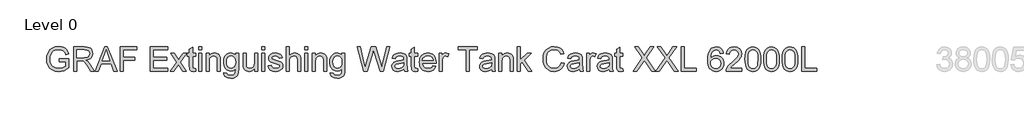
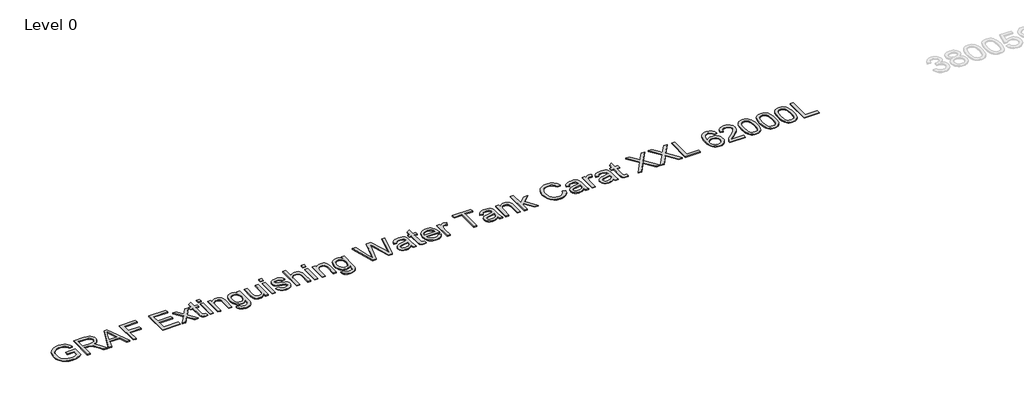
# One storey, part 3 of 37: 1 proxy.
"""IFC4 building model written with IfcOpenShell, lengths in millimetres."""

from ifc_helpers import new_model, si_unit, origin, origin_with_axes, place, context, project, spatial, polyline, outline, extrude, element, save

model = new_model("IFC4")

# Units and contexts
model_context = context("Model", 3, world=origin())
ifc_project = project(units=[si_unit("LENGTHUNIT", "METRE", prefix="MILLI")], contexts=[model_context])

# Site, building, storey
site = spatial("IfcSite", under=ifc_project)
building = spatial("IfcBuilding", under=site)
storey = spatial("IfcBuildingStorey", under=building, Name="Level 0", Elevation=0.0)

# Proxy
placement = place(None, origin())
element("IfcBuildingElementProxy", 1, Name="300mm Arial", ObjectType="300mm Arial", at=placement, inside=storey, context=model_context, shape_type="SweptSolid", body=[
    extrude(outline(polyline([(-17240.9940387, -37583.2545597), (-17240.9940387, -37545.5834434), (-17118.5629107, -37545.5834434), (-17118.5629107, -37658.2289103), (-17148.3153671, -37678.9222726), (-17179.0059225, -37693.7663111), (-17210.5610007, -37702.7058436), (-17242.9070251, -37705.6856877), (-17285.1674693, -37700.949207), (-17323.3628175, -37686.739765), (-17355.0926395, -37663.5540022), (-17377.9565055, -37631.8885595), (-17391.7796715, -37593.9047435), (-17396.3873935, -37551.7638609), (-17391.7980656, -37509.3194757), (-17378.0300819, -37469.8365406), (-17355.6536596, -37436.717964), (-17325.2390156, -37413.3666543), (-17288.1932987, -37399.5158972), (-17245.9236575, -37394.8989782), (-17214.8928112, -37397.5753197), (-17186.9889618, -37405.6043443), (-17163.4904994, -37418.4066377), (-17145.6758138, -37435.4027859), (-17132.4964413, -37457.4113262), (-17122.9039183, -37485.2507962), (-17157.6319786, -37495.0364573), (-17165.3850917, -37475.1800266), (-17174.8120678, -37460.1980323), (-17187.2832674, -37448.9040551), (-17204.169051, -37440.1116754), (-17224.3013932, -37434.4554897), (-17246.5122687, -37432.5700945), (-17272.5123287, -37434.6026425), (-17294.7415982, -37440.7002866), (-17313.1173039, -37450.0996716), (-17327.5566722, -37462.0374423), (-17346.9440533, -37491.0633317), (-17355.7732212, -37519.50061), (-17358.7162772, -37550.2187566), (-17355.175413, -37586.2436009), (-17344.5528204, -37615.8856927), (-17327.1703961, -37638.9334997), (-17303.3500369, -37655.1754898), (-17275.4737787, -37664.804801), (-17245.9236575, -37668.0145714), (-17219.831627, -37665.5957473), (-17194.3833899, -37658.3392749), (-17172.2828791, -37648.3420817), (-17156.234027, -37637.701095), (-17156.234027, -37583.2545597), (-17240.9940387, -37583.2545597)])), origin_with_axes(), (0.0, 0.0, 1.0), 10.0),
    extrude(outline(polyline([(-17057.3473467, -37700.9767982), (-17057.3473467, -37399.6078677), (-16927.4850024, -37399.6078677), (-16892.5821982, -37401.6404158), (-16867.1891434, -37407.7380598), (-16848.6294968, -37418.9952489), (-16834.2269167, -37436.5064318), (-16824.9838815, -37458.2206666), (-16821.9028698, -37482.087011), (-16827.0072325, -37511.7750881), (-16842.3203206, -37536.3863935), (-16853.9200997, -37546.4157764), (-16868.3019865, -37554.4310054), (-16905.4120827, -37564.4190016), (-16884.0013506, -37580.532233), (-16853.467145, -37619.3069952), (-16803.2144645, -37700.9767982), (-16846.9924219, -37700.9767982), (-16886.2086426, -37638.5104354), (-16914.5355562, -37597.1604991), (-16934.4379722, -37577.6259652), (-16952.3538253, -37570.4522663), (-16974.2060158, -37569.1278911), (-17019.6762304, -37569.1278911), (-17019.6762304, -37700.9767982), (-17057.3473467, -37700.9767982)]), holes=[polyline([(-17019.6762304, -37531.4567748), (-16935.3576771, -37531.4567748), (-16911.1418448, -37530.1232026), (-16892.3522719, -37526.1224859), (-16878.2072092, -37519.1879103), (-16867.9249074, -37509.0527613), (-16861.6617165, -37496.7930938), (-16859.5739861, -37483.4849626), (-16863.5563087, -37465.109257), (-16875.5032765, -37450.3020067), (-16896.058683, -37440.5347397), (-16925.8663217, -37437.278984), (-17019.6762304, -37437.278984), (-17019.6762304, -37531.4567748)])]), origin_with_axes(), (0.0, 0.0, 1.0), 10.0),
    extrude(outline(polyline([(-16791.0743586, -37700.9767982), (-16670.7769462, -37399.6078677), (-16638.6976362, -37399.6078677), (-16518.4002238, -37700.9767982), (-16558.2050557, -37700.9767982), (-16592.7123868, -37606.7990074), (-16716.835772, -37606.7990074), (-16751.2695268, -37700.9767982), (-16791.0743586, -37700.9767982)]), holes=[polyline([(-16703.003409, -37569.1278911), (-16606.4711735, -37569.1278911), (-16633.6208647, -37495.0364573), (-16654.7372912, -37437.278984), (-16673.499273, -37488.5617342), (-16703.003409, -37569.1278911)])]), origin_with_axes(), (0.0, 0.0, 1.0), 10.0),
    extrude(outline(polyline([(-16478.1539335, -37700.9767982), (-16478.1539335, -37399.6078677), (-16275.6716834, -37399.6078677), (-16275.6716834, -37437.278984), (-16440.4828172, -37437.278984), (-16440.4828172, -37526.7478853), (-16299.2161311, -37526.7478853), (-16299.2161311, -37564.4190016), (-16440.4828172, -37564.4190016), (-16440.4828172, -37700.9767982), (-16478.1539335, -37700.9767982)])), origin_with_axes(), (0.0, 0.0, 1.0), 10.0),
    extrude(outline(polyline([(-16106.15166, -37700.9767982), (-16106.15166, -37399.6078677), (-15889.5427413, -37399.6078677), (-15889.5427413, -37437.278984), (-16068.4805437, -37437.278984), (-16068.4805437, -37526.7478853), (-15898.9605203, -37526.7478853), (-15898.9605203, -37564.4190016), (-16068.4805437, -37564.4190016), (-16068.4805437, -37663.3056819), (-15884.8338517, -37663.3056819), (-15884.8338517, -37700.9767982), (-16106.15166, -37700.9767982)])), origin_with_axes(), (0.0, 0.0, 1.0), 10.0),
    extrude(outline(polyline([(-15856.5805145, -37700.9767982), (-15776.0879339, -37589.7292828), (-15851.8716249, -37479.6589899), (-15806.5485631, -37479.6589899), (-15769.9810928, -37532.6339972), (-15752.9113682, -37557.6499729), (-15738.122512, -37537.1957339), (-15696.4782702, -37479.6589899), (-15651.1552084, -37479.6589899), (-15730.7648721, -37589.7292828), (-15654.0982643, -37700.9767982), (-15699.4213261, -37700.9767982), (-15745.5537283, -37634.0958515), (-15754.0150142, -37621.8821692), (-15811.2574527, -37700.9767982), (-15856.5805145, -37700.9767982)])), origin_with_axes(), (0.0, 0.0, 1.0), 10.0),
    extrude(outline(polyline([(-15541.0849154, -37669.5596758), (-15536.3760259, -37702.0804442), (-15564.5557867, -37705.6856877), (-15582.6371868, -37704.1221892), (-15596.1200619, -37699.4316938), (-15605.6482056, -37692.2028126), (-15611.8654113, -37683.0241568), (-15615.2867139, -37667.2604133), (-15616.427148, -37640.276269), (-15616.427148, -37517.3301062), (-15644.6804853, -37517.3301062), (-15644.6804853, -37479.6589899), (-15616.427148, -37479.6589899), (-15616.427148, -37425.8746422), (-15578.7560317, -37403.7281461), (-15578.7560317, -37479.6589899), (-15541.0849154, -37479.6589899), (-15541.0849154, -37517.3301062), (-15578.7560317, -37517.3301062), (-15578.7560317, -37639.172623), (-15576.769469, -37658.5967923), (-15570.331534, -37665.4761856), (-15557.4924524, -37668.0145714), (-15541.0849154, -37669.5596758)])), origin_with_axes(), (0.0, 0.0, 1.0), 10.0),
    extrude(outline(polyline([(-15503.4137991, -37437.278984), (-15503.4137991, -37399.6078677), (-15465.7426828, -37399.6078677), (-15465.7426828, -37437.278984), (-15503.4137991, -37437.278984)])), origin_with_axes(), (0.0, 0.0, 1.0), 10.0),
    extrude(outline(polyline([(-15503.4137991, -37700.9767982), (-15503.4137991, -37479.6589899), (-15465.7426828, -37479.6589899), (-15465.7426828, -37700.9767982), (-15503.4137991, -37700.9767982)])), origin_with_axes(), (0.0, 0.0, 1.0), 10.0),
    extrude(outline(polyline([(-15409.2360084, -37700.9767982), (-15409.2360084, -37479.6589899), (-15371.564892, -37479.6589899), (-15371.564892, -37510.5610775), (-15358.4774901, -37494.981275), (-15342.7597318, -37483.8528446), (-15324.4116173, -37477.1757864), (-15303.4331465, -37474.9501003), (-15284.8643028, -37476.7435251), (-15267.8589576, -37482.1237992), (-15253.6771067, -37490.4195382), (-15243.5787459, -37500.9593574), (-15232.2847687, -37528.6608716), (-15230.2982059, -37565.0811892), (-15230.2982059, -37700.9767982), (-15267.9693222, -37700.9767982), (-15267.9693222, -37570.1579607), (-15272.3103297, -37536.8278519), (-15278.3160033, -37526.9042351), (-15287.6510089, -37519.2063044), (-15299.6163708, -37514.2674886), (-15313.5131132, -37512.6212166), (-15335.5768359, -37516.3184307), (-15354.3848029, -37527.4100729), (-15361.9010919, -37536.4645685), (-15367.2698698, -37548.8391991), (-15371.564892, -37583.5488653), (-15371.564892, -37700.9767982), (-15409.2360084, -37700.9767982)])), origin_with_axes(), (0.0, 0.0, 1.0), 10.0),
    extrude(outline(polyline([(-15187.9182001, -37719.8123563), (-15150.2470837, -37724.5212459), (-15146.0900172, -37736.2934697), (-15138.0334015, -37744.3868736), (-15122.1960816, -37750.6776557), (-15101.4659312, -37752.7745831), (-15079.3562233, -37750.4017442), (-15062.9118981, -37743.2832276), (-15051.5075562, -37731.8788858), (-15044.5177983, -37716.6485712), (-15041.9426244, -37672.7234609), (-15054.4782034, -37685.084296), (-15068.4669162, -37693.9134639), (-15083.908763, -37699.2109646), (-15100.8037436, -37700.9767982), (-15121.4580184, -37698.9212575), (-15139.6428852, -37692.7546356), (-15155.3583442, -37682.4769323), (-15168.6043953, -37668.0881478), (-15179.1143241, -37650.8252852), (-15186.621416, -37631.9253477), (-15191.1256712, -37611.3883353), (-15192.6270896, -37589.214248), (-15189.932354, -37558.7996041), (-15181.8481471, -37530.8313754), (-15168.6595776, -37507.1305779), (-15150.6517539, -37489.5182274), (-15128.4408785, -37478.5921321), (-15102.6431536, -37474.9501003), (-15085.0262045, -37477.0102395), (-15069.0371333, -37483.190657), (-15054.6759399, -37493.4913529), (-15041.9426244, -37507.9123271), (-15041.9426244, -37479.6589899), (-15004.2715081, -37479.6589899), (-15004.2715081, -37670.7368982), (-15006.846682, -37714.8551464), (-15014.5722039, -37743.908627), (-15027.8803351, -37763.1764465), (-15047.2033369, -37777.9377116), (-15072.118145, -37787.3187024), (-15102.2016952, -37790.4456994), (-15137.2516523, -37786.0403125), (-15164.851999, -37772.8241518), (-15175.2469646, -37762.9028343), (-15182.55632, -37750.7604292), (-15186.7800651, -37736.3969365), (-15187.9182001, -37719.8123563)]), holes=[polyline([(-15154.9559733, -37586.6390741), (-15150.9368625, -37621.1923905), (-15138.8795301, -37644.9483703), (-15120.7521448, -37658.716354), (-15098.5228752, -37663.3056819), (-15076.4591526, -37658.7439451), (-15058.2397968, -37645.0587349), (-15046.0169175, -37621.6062577), (-15041.9426244, -37587.7427201), (-15046.1364791, -37555.0839959), (-15058.7180433, -37531.5671394), (-15077.2041136, -37517.3576973), (-15099.1114864, -37512.6212166), (-15120.6233861, -37517.2841209), (-15138.6588009, -37531.2728338), (-15150.8816802, -37554.4402024), (-15154.9559733, -37586.6390741)])]), origin_with_axes(), (0.0, 0.0, 1.0), 10.0),
    extrude(outline(polyline([(-14806.4981475, -37700.9767982), (-14806.4981475, -37662.9377999), (-14820.1281754, -37681.6400008), (-14836.0022835, -37694.9987158), (-14854.1204717, -37703.0139447), (-14874.4827402, -37705.6856877), (-14892.8308547, -37703.8094895), (-14909.9097763, -37698.180895), (-14924.23878, -37689.7196091), (-14934.3371408, -37679.3453369), (-14945.5575416, -37651.6070344), (-14947.7648336, -37616.5846685), (-14947.7648336, -37479.6589899), (-14910.0937173, -37479.6589899), (-14910.0937173, -37598.8527563), (-14907.8128489, -37637.2596366), (-14902.3222101, -37650.0711271), (-14892.9136281, -37659.8108029), (-14880.2125022, -37665.9636293), (-14864.8442319, -37668.0145714), (-14848.5930448, -37665.917644), (-14833.3903213, -37659.6268619), (-14820.8547423, -37649.7216392), (-14812.6049886, -37636.78139), (-14808.0248577, -37619.0586749), (-14806.4981475, -37594.8060544), (-14806.4981475, -37479.6589899), (-14768.8270311, -37479.6589899), (-14768.8270311, -37700.9767982), (-14806.4981475, -37700.9767982)])), origin_with_axes(), (0.0, 0.0, 1.0), 10.0),
    extrude(outline(polyline([(-14717.0292462, -37437.278984), (-14717.0292462, -37399.6078677), (-14679.3581299, -37399.6078677), (-14679.3581299, -37437.278984), (-14717.0292462, -37437.278984)])), origin_with_axes(), (0.0, 0.0, 1.0), 10.0),
    extrude(outline(polyline([(-14717.0292462, -37700.9767982), (-14717.0292462, -37479.6589899), (-14679.3581299, -37479.6589899), (-14679.3581299, -37700.9767982), (-14717.0292462, -37700.9767982)])), origin_with_axes(), (0.0, 0.0, 1.0), 10.0),
    extrude(outline(polyline([(-14636.9781241, -37635.0523446), (-14599.3070078, -37630.3434551), (-14593.3657135, -37646.4566865), (-14581.8694012, -37658.3024867), (-14564.7444943, -37665.5865502), (-14541.9174165, -37668.0145714), (-14519.3662502, -37665.7888853), (-14503.5105362, -37659.1118271), (-14494.1295453, -37649.4365307), (-14491.0025484, -37638.2161298), (-14494.1479394, -37628.6144097), (-14503.5841126, -37621.293558), (-14542.3588749, -37610.5514038), (-14599.0862786, -37592.1205158), (-14613.4428734, -37582.8590866), (-14623.8447368, -37570.5994191), (-14630.1631101, -37556.1232626), (-14632.2692345, -37540.2123663), (-14630.5769774, -37525.6166481), (-14625.5002058, -37512.1429701), (-14617.4987724, -37500.324761), (-14607.0325297, -37490.6954497), (-14583.0834118, -37479.5486253), (-14550.673008, -37474.9501003), (-14526.153673, -37476.7987074), (-14504.8349114, -37482.3445284), (-14487.6916104, -37491.0449376), (-14475.6986574, -37502.357309), (-14467.7524063, -37517.118574), (-14462.7492112, -37536.1656643), (-14500.4203275, -37540.8745539), (-14505.1752023, -37529.0195566), (-14514.5837843, -37520.0892211), (-14528.738044, -37514.4882178), (-14547.729952, -37512.6212166), (-14569.3614134, -37514.4054443), (-14583.7823876, -37519.7581274), (-14591.8941856, -37527.4836493), (-14594.5981182, -37536.3863935), (-14590.1099579, -37547.349277), (-14576.0568657, -37555.6634101), (-14543.6096737, -37563.6832376), (-14488.3170098, -37581.4151497), (-14473.7120946, -37589.8948297), (-14462.6388466, -37601.5015067), (-14455.6582857, -37616.2719688), (-14453.3314321, -37634.2430043), (-14456.0629559, -37652.821045), (-14464.2575273, -37670.2954398), (-14477.6024467, -37685.2958281), (-14495.7850143, -37696.4518496), (-14517.7475694, -37703.3772282), (-14542.4324513, -37705.6856877), (-14580.4162673, -37701.2343156), (-14608.1361757, -37687.8801991), (-14626.64064, -37665.7704912), (-14636.9781241, -37635.0523446)])), origin_with_axes(), (0.0, 0.0, 1.0), 10.0),
    extrude(outline(polyline([(-14410.9514262, -37700.9767982), (-14410.9514262, -37399.6078677), (-14373.2803099, -37399.6078677), (-14373.2803099, -37510.4139247), (-14359.4433484, -37494.8985015), (-14343.9049326, -37483.8160564), (-14326.6650626, -37477.1665894), (-14307.7237384, -37474.9501003), (-14284.970237, -37477.3689245), (-14265.4173089, -37484.6253968), (-14250.0214474, -37496.1493003), (-14239.7391457, -37511.3704179), (-14233.9450043, -37532.2845093), (-14232.0136238, -37560.8873344), (-14232.0136238, -37700.9767982), (-14269.6847401, -37700.9767982), (-14269.6847401, -37564.7868836), (-14272.6829784, -37541.2056477), (-14281.6776931, -37525.0556281), (-14296.1722437, -37515.7298195), (-14315.6699895, -37512.6212166), (-14331.5900828, -37514.718144), (-14346.5352889, -37521.0089261), (-14358.914518, -37530.8865577), (-14367.1366806, -37543.7440334), (-14371.7444026, -37560.8321521), (-14373.2803099, -37583.4017125), (-14373.2803099, -37700.9767982), (-14410.9514262, -37700.9767982)])), origin_with_axes(), (0.0, 0.0, 1.0), 10.0),
    extrude(outline(polyline([(-14180.2158389, -37437.278984), (-14180.2158389, -37399.6078677), (-14142.5447226, -37399.6078677), (-14142.5447226, -37437.278984), (-14180.2158389, -37437.278984)])), origin_with_axes(), (0.0, 0.0, 1.0), 10.0),
    extrude(outline(polyline([(-14180.2158389, -37700.9767982), (-14180.2158389, -37479.6589899), (-14142.5447226, -37479.6589899), (-14142.5447226, -37700.9767982), (-14180.2158389, -37700.9767982)])), origin_with_axes(), (0.0, 0.0, 1.0), 10.0),
    extrude(outline(polyline([(-14086.0380481, -37700.9767982), (-14086.0380481, -37479.6589899), (-14048.3669318, -37479.6589899), (-14048.3669318, -37510.5610775), (-14035.2795298, -37494.981275), (-14019.5617716, -37483.8528446), (-14001.2136571, -37477.1757864), (-13980.2351863, -37474.9501003), (-13961.6663426, -37476.7435251), (-13944.6609974, -37482.1237992), (-13930.4791464, -37490.4195382), (-13920.3807857, -37500.9593574), (-13909.0868084, -37528.6608716), (-13907.1002456, -37565.0811892), (-13907.1002456, -37700.9767982), (-13944.771362, -37700.9767982), (-13944.771362, -37570.1579607), (-13949.1123695, -37536.8278519), (-13955.1180431, -37526.9042351), (-13964.4530487, -37519.2063044), (-13976.4184106, -37514.2674886), (-13990.315153, -37512.6212166), (-14012.3788756, -37516.3184307), (-14031.1868426, -37527.4100729), (-14038.7031316, -37536.4645685), (-14044.0719095, -37548.8391991), (-14048.3669318, -37583.5488653), (-14048.3669318, -37700.9767982), (-14086.0380481, -37700.9767982)])), origin_with_axes(), (0.0, 0.0, 1.0), 10.0),
    extrude(outline(polyline([(-13864.7202398, -37719.8123563), (-13827.0491235, -37724.5212459), (-13822.8920569, -37736.2934697), (-13814.8354413, -37744.3868736), (-13798.9981214, -37750.6776557), (-13778.2679709, -37752.7745831), (-13756.158263, -37750.4017442), (-13739.7139378, -37743.2832276), (-13728.309596, -37731.8788858), (-13721.3198381, -37716.6485712), (-13718.7446641, -37672.7234609), (-13731.2802431, -37685.084296), (-13745.268956, -37693.9134639), (-13760.7108027, -37699.2109646), (-13777.6057833, -37700.9767982), (-13798.2600581, -37698.9212575), (-13816.444925, -37692.7546356), (-13832.160384, -37682.4769323), (-13845.4064351, -37668.0881478), (-13855.9163638, -37650.8252852), (-13863.4234558, -37631.9253477), (-13867.9277109, -37611.3883353), (-13869.4291293, -37589.214248), (-13866.7343937, -37558.7996041), (-13858.6501869, -37530.8313754), (-13845.4616174, -37507.1305779), (-13827.4537937, -37489.5182274), (-13805.2429182, -37478.5921321), (-13779.4451933, -37474.9501003), (-13761.8282443, -37477.0102395), (-13745.8391731, -37483.190657), (-13731.4779797, -37493.4913529), (-13718.7446641, -37507.9123271), (-13718.7446641, -37479.6589899), (-13681.0735478, -37479.6589899), (-13681.0735478, -37670.7368982), (-13683.6487218, -37714.8551464), (-13691.3742437, -37743.908627), (-13704.6823748, -37763.1764465), (-13724.0053766, -37777.9377116), (-13748.9201848, -37787.3187024), (-13779.0037349, -37790.4456994), (-13814.053692, -37786.0403125), (-13841.6540387, -37772.8241518), (-13852.0490043, -37762.9028343), (-13859.3583597, -37750.7604292), (-13863.5821049, -37736.3969365), (-13864.7202398, -37719.8123563)]), holes=[polyline([(-13831.758013, -37586.6390741), (-13827.7389022, -37621.1923905), (-13815.6815698, -37644.9483703), (-13797.5541845, -37658.716354), (-13775.324915, -37663.3056819), (-13753.2611923, -37658.7439451), (-13735.0418365, -37645.0587349), (-13722.8189572, -37621.6062577), (-13718.7446641, -37587.7427201), (-13722.9385189, -37555.0839959), (-13735.5200831, -37531.5671394), (-13754.0061534, -37517.3576973), (-13775.9135262, -37512.6212166), (-13797.4254258, -37517.2841209), (-13815.4608406, -37531.2728338), (-13827.6837199, -37554.4402024), (-13831.758013, -37586.6390741)])]), origin_with_axes(), (0.0, 0.0, 1.0), 10.0),
    extrude(outline(polyline([(-13448.2042449, -37700.9767982), (-13530.3890826, -37399.6078677), (-13491.5407439, -37399.6078677), (-13443.8632373, -37597.6755339), (-13429.1479575, -37658.8175215), (-13413.4026081, -37604.7388682), (-13353.6585721, -37399.6078677), (-13297.6669324, -37399.6078677), (-13254.256857, -37548.3057702), (-13235.6604221, -37603.4880695), (-13221.9568178, -37658.8175215), (-13207.6829964, -37599.4413675), (-13159.5640314, -37399.6078677), (-13120.7156928, -37399.6078677), (-13202.9741069, -37700.9767982), (-13243.2203971, -37700.9767982), (-13315.472421, -37468.4753772), (-13325.5523877, -37436.0281853), (-13336.8831531, -37475.0972531), (-13402.7340303, -37700.9767982), (-13448.2042449, -37700.9767982)])), origin_with_axes(), (0.0, 0.0, 1.0), 10.0),
    extrude(outline(polyline([(-12946.4867798, -37672.7234609), (-12964.4854065, -37688.1561106), (-12983.017462, -37698.2544714), (-13002.5060107, -37703.8278836), (-13023.3741168, -37705.6856877), (-13054.8556186, -37701.2159215), (-13078.0781695, -37687.8066228), (-13092.3979762, -37667.4443543), (-13097.1712451, -37642.1156789), (-13095.3686233, -37626.4990883), (-13089.960758, -37612.3172373), (-13081.6190337, -37600.1771315), (-13071.0148352, -37590.685776), (-13044.6376962, -37578.324941), (-13012.0433514, -37572.6595583), (-12973.5261065, -37566.6998699), (-12946.707509, -37559.710112), (-12946.4867798, -37551.3224025), (-12949.0803479, -37534.5101954), (-12956.8610521, -37523.5105237), (-12974.2618705, -37515.3435434), (-12998.505294, -37512.6212166), (-13020.9460957, -37514.4330355), (-13036.6178687, -37519.868492), (-13047.3048406, -37529.9208675), (-13054.7912392, -37545.5834434), (-13092.4623555, -37540.8745539), (-13085.9232531, -37520.2731621), (-13076.1651831, -37504.0863544), (-13062.2776378, -37491.7071252), (-13043.3501092, -37482.5284694), (-13020.2011346, -37476.8446926), (-12993.6492516, -37474.9501003), (-12968.1826205, -37476.6239634), (-12947.995096, -37481.6455527), (-12932.7739785, -37489.1963306), (-12922.2065682, -37498.4577598), (-12915.1984162, -37509.9080869), (-12910.6550735, -37524.0255585), (-12908.8156635, -37556.9877853), (-12908.8156635, -37603.8559515), (-12906.9026772, -37669.3021584), (-12899.3978845, -37700.9767982), (-12937.0690008, -37700.9767982), (-12946.4867798, -37672.7234609)]), holes=[polyline([(-12946.4867798, -37597.3812283), (-13007.2608854, -37608.932723), (-13039.6712892, -37615.0395641), (-13054.3497808, -37624.972378), (-13059.5001288, -37639.4669286), (-13056.6950285, -37650.6689353), (-13048.2797279, -37659.8475911), (-13034.4381678, -37665.9728263), (-13015.3542893, -37668.0145714), (-12995.1207796, -37665.7612942), (-12977.2417146, -37659.0014625), (-12962.747164, -37649.0410575), (-12952.6671974, -37637.1860602), (-12948.1974311, -37624.972378), (-12946.707509, -37608.0498062), (-12946.4867798, -37597.3812283)])]), origin_with_axes(), (0.0, 0.0, 1.0), 10.0),
    extrude(outline(polyline([(-12776.9667565, -37669.5596758), (-12772.2578669, -37702.0804442), (-12800.4376278, -37705.6856877), (-12818.5190278, -37704.1221892), (-12832.0019029, -37699.4316938), (-12841.5300466, -37692.2028126), (-12847.7472523, -37683.0241568), (-12851.1685549, -37667.2604133), (-12852.3089891, -37640.276269), (-12852.3089891, -37517.3301062), (-12880.5623263, -37517.3301062), (-12880.5623263, -37479.6589899), (-12852.3089891, -37479.6589899), (-12852.3089891, -37425.8746422), (-12814.6378728, -37403.7281461), (-12814.6378728, -37479.6589899), (-12776.9667565, -37479.6589899), (-12776.9667565, -37517.3301062), (-12814.6378728, -37517.3301062), (-12814.6378728, -37639.172623), (-12812.65131, -37658.5967923), (-12806.2133751, -37665.4761856), (-12793.3742934, -37668.0145714), (-12776.9667565, -37669.5596758)])), origin_with_axes(), (0.0, 0.0, 1.0), 10.0),
    extrude(outline(polyline([(-12584.3437438, -37635.0523446), (-12547.4083915, -37639.7612342), (-12560.7165226, -37667.5915071), (-12581.9525108, -37688.3952339), (-12610.6381094, -37701.3630743), (-12646.2950718, -37705.6856877), (-12669.669374, -37703.8209859), (-12690.4960935, -37698.2268803), (-12708.7752301, -37688.9033709), (-12724.506784, -37675.8504579), (-12737.1573261, -37659.4314246), (-12746.1934276, -37640.0095545), (-12751.6150885, -37617.5848477), (-12753.4223088, -37592.157304), (-12751.5966944, -37565.8675369), (-12746.1198512, -37542.6955698), (-12736.9917792, -37522.6414025), (-12724.2124784, -37505.7050351), (-12708.5223113, -37492.2497512), (-12690.6616404, -37482.638834), (-12670.6304658, -37476.8722838), (-12648.4287873, -37474.9501003), (-12626.9421796, -37476.8676852), (-12607.5111124, -37482.6204399), (-12590.1355859, -37492.2083644), (-12574.8156001, -37505.6314587), (-12562.3099115, -37522.5310379), (-12553.3772768, -37542.548417), (-12548.017696, -37565.6835959), (-12546.2311691, -37591.9365748), (-12546.4518983, -37602.0901179), (-12715.7511925, -37602.0901179), (-12709.2304841, -37630.2882728), (-12694.0829429, -37651.0184232), (-12672.2215554, -37663.7655344), (-12645.5593078, -37668.0145714), (-12625.509739, -37666.0464027), (-12608.6239555, -37660.1418967), (-12594.901957, -37649.9331713), (-12584.3437438, -37635.0523446)]), holes=[polyline([(-12715.7511925, -37564.4190016), (-12583.9022854, -37564.4190016), (-12588.997451, -37544.5165856), (-12598.9854472, -37530.2795524), (-12620.9480023, -37517.0358006), (-12648.5759401, -37512.6212166), (-12673.9689949, -37516.1436868), (-12694.9658597, -37526.7110971), (-12709.5615779, -37543.1830134), (-12715.7511925, -37564.4190016)])]), origin_with_axes(), (0.0, 0.0, 1.0), 10.0),
    extrude(outline(polyline([(-12508.5600528, -37700.9767982), (-12508.5600528, -37479.6589899), (-12475.597826, -37479.6589899), (-12475.597826, -37512.4004875), (-12463.420932, -37493.4177765), (-12452.2005311, -37482.2341638), (-12440.9433421, -37476.7711162), (-12428.6560834, -37474.9501003), (-12409.8941017, -37477.8563681), (-12390.8378143, -37486.5751714), (-12403.4193786, -37520.3467385), (-12416.6631304, -37514.5525971), (-12429.9068822, -37512.6212166), (-12441.1548742, -37514.4790207), (-12451.2072497, -37520.052433), (-12459.3282448, -37528.918389), (-12464.7820954, -37540.6538247), (-12469.3622262, -37561.6966748), (-12470.8889365, -37584.6525113), (-12470.8889365, -37700.9767982), (-12508.5600528, -37700.9767982)])), origin_with_axes(), (0.0, 0.0, 1.0), 10.0),
    extrude(outline(polyline([(-12169.520006, -37700.9767982), (-12169.520006, -37437.278984), (-12268.4066863, -37437.278984), (-12268.4066863, -37399.6078677), (-12032.9622094, -37399.6078677), (-12032.9622094, -37437.278984), (-12131.8488897, -37437.278984), (-12131.8488897, -37700.9767982), (-12169.520006, -37700.9767982)])), origin_with_axes(), (0.0, 0.0, 1.0), 10.0),
    extrude(outline(polyline([(-11854.024407, -37672.7234609), (-11872.0230336, -37688.1561106), (-11890.5550891, -37698.2544714), (-11910.0436378, -37703.8278836), (-11930.911744, -37705.6856877), (-11962.3932457, -37701.2159215), (-11985.6157966, -37687.8066228), (-11999.9356033, -37667.4443543), (-12004.7088722, -37642.1156789), (-12002.9062504, -37626.4990883), (-11997.4983851, -37612.3172373), (-11989.1566608, -37600.1771315), (-11978.5524623, -37590.685776), (-11952.1753233, -37578.324941), (-11919.5809785, -37572.6595583), (-11881.0637336, -37566.6998699), (-11854.2451362, -37559.710112), (-11854.024407, -37551.3224025), (-11856.617975, -37534.5101954), (-11864.3986792, -37523.5105237), (-11881.7994976, -37515.3435434), (-11906.0429211, -37512.6212166), (-11928.4837228, -37514.4330355), (-11944.1554958, -37519.868492), (-11954.8424677, -37529.9208675), (-11962.3288663, -37545.5834434), (-11999.9999826, -37540.8745539), (-11993.4608802, -37520.2731621), (-11983.7028103, -37504.0863544), (-11969.8152649, -37491.7071252), (-11950.8877363, -37482.5284694), (-11927.7387617, -37476.8446926), (-11901.1868787, -37474.9501003), (-11875.7202476, -37476.6239634), (-11855.5327231, -37481.6455527), (-11840.3116056, -37489.1963306), (-11829.7441953, -37498.4577598), (-11822.7360433, -37509.9080869), (-11818.1927006, -37524.0255585), (-11816.3532907, -37556.9877853), (-11816.3532907, -37603.8559515), (-11814.4403043, -37669.3021584), (-11806.9355116, -37700.9767982), (-11844.6066279, -37700.9767982), (-11854.024407, -37672.7234609)]), holes=[polyline([(-11854.024407, -37597.3812283), (-11914.7985126, -37608.932723), (-11947.2089163, -37615.0395641), (-11961.8874079, -37624.972378), (-11967.0377559, -37639.4669286), (-11964.2326557, -37650.6689353), (-11955.817355, -37659.8475911), (-11941.975795, -37665.9728263), (-11922.8919165, -37668.0145714), (-11902.6584067, -37665.7612942), (-11884.7793418, -37659.0014625), (-11870.2847911, -37649.0410575), (-11860.2048245, -37637.1860602), (-11855.7350582, -37624.972378), (-11854.2451362, -37608.0498062), (-11854.024407, -37597.3812283)])]), origin_with_axes(), (0.0, 0.0, 1.0), 10.0),
    extrude(outline(polyline([(-11764.5555057, -37700.9767982), (-11764.5555057, -37479.6589899), (-11726.8843894, -37479.6589899), (-11726.8843894, -37510.5610775), (-11713.7969875, -37494.981275), (-11698.0792292, -37483.8528446), (-11679.7311147, -37477.1757864), (-11658.7526439, -37474.9501003), (-11640.1838002, -37476.7435251), (-11623.178455, -37482.1237992), (-11608.9966041, -37490.4195382), (-11598.8982433, -37500.9593574), (-11587.6042661, -37528.6608716), (-11585.6177033, -37565.0811892), (-11585.6177033, -37700.9767982), (-11623.2888196, -37700.9767982), (-11623.2888196, -37570.1579607), (-11627.6298271, -37536.8278519), (-11633.6355007, -37526.9042351), (-11642.9705063, -37519.2063044), (-11654.9358682, -37514.2674886), (-11668.8326106, -37512.6212166), (-11690.8963333, -37516.3184307), (-11709.7043003, -37527.4100729), (-11717.2205893, -37536.4645685), (-11722.5893671, -37548.8391991), (-11726.8843894, -37583.5488653), (-11726.8843894, -37700.9767982), (-11764.5555057, -37700.9767982)])), origin_with_axes(), (0.0, 0.0, 1.0), 10.0),
    extrude(outline(polyline([(-11533.8199184, -37700.9767982), (-11533.8199184, -37399.6078677), (-11496.1488021, -37399.6078677), (-11496.1488021, -37561.549522), (-11411.683096, -37479.6589899), (-11359.5910054, -37479.6589899), (-11445.0867811, -37562.5795916), (-11354.8821159, -37700.9767982), (-11398.8808025, -37700.9767982), (-11472.0893196, -37588.7727896), (-11496.1488021, -37612.0965081), (-11496.1488021, -37700.9767982), (-11533.8199184, -37700.9767982)])), origin_with_axes(), (0.0, 0.0, 1.0), 10.0),
    extrude(outline(polyline([(-10987.5887319, -37593.8495612), (-10949.9176156, -37603.5616459), (-10957.3718245, -37626.9888312), (-10967.3000399, -37647.4591649), (-10979.7022617, -37664.9726472), (-10994.5784898, -37679.5292779), (-11011.5930321, -37690.9727072), (-11030.4101962, -37699.1465853), (-11051.029982, -37704.0509121), (-11073.4523896, -37705.6856877), (-11117.1475736, -37700.7376749), (-11151.8480428, -37685.8936364), (-11178.445911, -37661.668607), (-11197.8332922, -37628.5776215), (-11209.6698954, -37589.6741005), (-11213.6154298, -37548.0114646), (-11209.1548606, -37504.0679603), (-11195.773153, -37466.1209325), (-11174.1692828, -37435.3751947), (-11145.0422259, -37413.0355606), (-11110.4981065, -37399.4331238), (-11072.6430492, -37394.8989782), (-11031.3390982, -37400.766696), (-11013.370362, -37408.1013433), (-10997.190452, -37418.3698495), (-10983.0660826, -37431.3009016), (-10971.2639684, -37446.6231867), (-10954.6265052, -37484.4414558), (-10992.2976215, -37493.4177765), (-11005.3574323, -37465.9461885), (-11023.1997091, -37447.1014333), (-11046.045181, -37436.2029292), (-11074.1145772, -37432.5700945), (-11106.4697987, -37436.5984023), (-11133.0492728, -37448.6833259), (-11153.2184032, -37467.5556722), (-11166.3425934, -37491.9462485), (-11173.5438834, -37519.5190041), (-11175.9443135, -37547.9378882), (-11173.102425, -37582.7395249), (-11164.5767598, -37612.8322721), (-11150.045421, -37637.0664986), (-11129.1865119, -37654.292573), (-11104.1797332, -37664.5840718), (-11077.2047859, -37668.0145714), (-11045.7600724, -37663.3424701), (-11019.5576773, -37649.3261661), (-10999.774823, -37626.1128122), (-10987.5887319, -37593.8495612)])), origin_with_axes(), (0.0, 0.0, 1.0), 10.0),
    extrude(outline(polyline([(-10761.5620341, -37672.7234609), (-10779.5606607, -37688.1561106), (-10798.0927162, -37698.2544714), (-10817.5812649, -37703.8278836), (-10838.4493711, -37705.6856877), (-10869.9308728, -37701.2159215), (-10893.1534238, -37687.8066228), (-10907.4732304, -37667.4443543), (-10912.2464993, -37642.1156789), (-10910.4438775, -37626.4990883), (-10905.0360122, -37612.3172373), (-10896.694288, -37600.1771315), (-10886.0900895, -37590.685776), (-10859.7129504, -37578.324941), (-10827.1186056, -37572.6595583), (-10788.6013607, -37566.6998699), (-10761.7827633, -37559.710112), (-10761.5620341, -37551.3224025), (-10764.1556022, -37534.5101954), (-10771.9363064, -37523.5105237), (-10789.3371247, -37515.3435434), (-10813.5805482, -37512.6212166), (-10836.0213499, -37514.4330355), (-10851.6931229, -37519.868492), (-10862.3800949, -37529.9208675), (-10869.8664935, -37545.5834434), (-10907.5376098, -37540.8745539), (-10900.9985073, -37520.2731621), (-10891.2404374, -37504.0863544), (-10877.3528921, -37491.7071252), (-10858.4253634, -37482.5284694), (-10835.2763889, -37476.8446926), (-10808.7245059, -37474.9501003), (-10783.2578748, -37476.6239634), (-10763.0703503, -37481.6455527), (-10747.8492327, -37489.1963306), (-10737.2818224, -37498.4577598), (-10730.2736704, -37509.9080869), (-10725.7303278, -37524.0255585), (-10723.8909178, -37556.9877853), (-10723.8909178, -37603.8559515), (-10721.9779314, -37669.3021584), (-10714.4731387, -37700.9767982), (-10752.144255, -37700.9767982), (-10761.5620341, -37672.7234609)]), holes=[polyline([(-10761.5620341, -37597.3812283), (-10822.3361397, -37608.932723), (-10854.7465435, -37615.0395641), (-10869.4250351, -37624.972378), (-10874.575383, -37639.4669286), (-10871.7702828, -37650.6689353), (-10863.3549822, -37659.8475911), (-10849.5134221, -37665.9728263), (-10830.4295436, -37668.0145714), (-10810.1960338, -37665.7612942), (-10792.3169689, -37659.0014625), (-10777.8224183, -37649.0410575), (-10767.7424516, -37637.1860602), (-10763.2726854, -37624.972378), (-10761.7827633, -37608.0498062), (-10761.5620341, -37597.3812283)])]), origin_with_axes(), (0.0, 0.0, 1.0), 10.0),
    extrude(outline(polyline([(-10672.0931329, -37700.9767982), (-10672.0931329, -37479.6589899), (-10639.1309061, -37479.6589899), (-10639.1309061, -37512.4004875), (-10626.9540121, -37493.4177765), (-10615.7336112, -37482.2341638), (-10604.4764221, -37476.7711162), (-10592.1891635, -37474.9501003), (-10573.4271818, -37477.8563681), (-10554.3708944, -37486.5751714), (-10566.9524586, -37520.3467385), (-10580.1962105, -37514.5525971), (-10593.4399623, -37512.6212166), (-10604.6879543, -37514.4790207), (-10614.7403298, -37520.052433), (-10622.8613249, -37528.918389), (-10628.3151754, -37540.6538247), (-10632.8953063, -37561.6966748), (-10634.4220166, -37584.6525113), (-10634.4220166, -37700.9767982), (-10672.0931329, -37700.9767982)])), origin_with_axes(), (0.0, 0.0, 1.0), 10.0),
    extrude(outline(polyline([(-10389.5597606, -37672.7234609), (-10407.5583872, -37688.1561106), (-10426.0904427, -37698.2544714), (-10445.5789914, -37703.8278836), (-10466.4470976, -37705.6856877), (-10497.9285993, -37701.2159215), (-10521.1511502, -37687.8066228), (-10535.4709569, -37667.4443543), (-10540.2442258, -37642.1156789), (-10538.441604, -37626.4990883), (-10533.0337387, -37612.3172373), (-10524.6920144, -37600.1771315), (-10514.0878159, -37590.685776), (-10487.7106769, -37578.324941), (-10455.1163321, -37572.6595583), (-10416.5990872, -37566.6998699), (-10389.7804898, -37559.710112), (-10389.5597606, -37551.3224025), (-10392.1533286, -37534.5101954), (-10399.9340328, -37523.5105237), (-10417.3348512, -37515.3435434), (-10441.5782747, -37512.6212166), (-10464.0190764, -37514.4330355), (-10479.6908494, -37519.868492), (-10490.3778213, -37529.9208675), (-10497.8642199, -37545.5834434), (-10535.5353362, -37540.8745539), (-10528.9962338, -37520.2731621), (-10519.2381639, -37504.0863544), (-10505.3506185, -37491.7071252), (-10486.4230899, -37482.5284694), (-10463.2741153, -37476.8446926), (-10436.7222323, -37474.9501003), (-10411.2556012, -37476.6239634), (-10391.0680767, -37481.6455527), (-10375.8469592, -37489.1963306), (-10365.2795489, -37498.4577598), (-10358.2713969, -37509.9080869), (-10353.7280542, -37524.0255585), (-10351.8886443, -37556.9877853), (-10351.8886443, -37603.8559515), (-10349.9756579, -37669.3021584), (-10342.4708652, -37700.9767982), (-10380.1419815, -37700.9767982), (-10389.5597606, -37672.7234609)]), holes=[polyline([(-10389.5597606, -37597.3812283), (-10450.3338662, -37608.932723), (-10482.7442699, -37615.0395641), (-10497.4227615, -37624.972378), (-10502.5731095, -37639.4669286), (-10499.7680093, -37650.6689353), (-10491.3527086, -37659.8475911), (-10477.5111486, -37665.9728263), (-10458.4272701, -37668.0145714), (-10438.1937603, -37665.7612942), (-10420.3146954, -37659.0014625), (-10405.8201448, -37649.0410575), (-10395.7401781, -37637.1860602), (-10391.2704118, -37624.972378), (-10389.7804898, -37608.0498062), (-10389.5597606, -37597.3812283)])]), origin_with_axes(), (0.0, 0.0, 1.0), 10.0),
    extrude(outline(polyline([(-10220.0397372, -37669.5596758), (-10215.3308476, -37702.0804442), (-10243.5106085, -37705.6856877), (-10261.5920085, -37704.1221892), (-10275.0748837, -37699.4316938), (-10284.6030273, -37692.2028126), (-10290.8202331, -37683.0241568), (-10294.2415356, -37667.2604133), (-10295.3819698, -37640.276269), (-10295.3819698, -37517.3301062), (-10323.635307, -37517.3301062), (-10323.635307, -37479.6589899), (-10295.3819698, -37479.6589899), (-10295.3819698, -37425.8746422), (-10257.7108535, -37403.7281461), (-10257.7108535, -37479.6589899), (-10220.0397372, -37479.6589899), (-10220.0397372, -37517.3301062), (-10257.7108535, -37517.3301062), (-10257.7108535, -37639.172623), (-10255.7242907, -37658.5967923), (-10249.2863558, -37665.4761856), (-10236.4472742, -37668.0145714), (-10220.0397372, -37669.5596758)])), origin_with_axes(), (0.0, 0.0, 1.0), 10.0),
    extrude(outline(polyline([(-10092.8997197, -37700.9767982), (-9976.7225856, -37536.7542755), (-10074.0641615, -37399.6078677), (-10028.8882525, -37399.6078677), (-9974.0738352, -37476.7895103), (-9955.6061591, -37506.8822575), (-9933.9746977, -37476.2744755), (-9879.7488916, -37399.6078677), (-9833.910795, -37399.6078677), (-9931.252371, -37537.1957339), (-9815.0752369, -37700.9767982), (-9860.2511459, -37700.9767982), (-9937.6535177, -37591.789422), (-9953.7667491, -37569.1278911), (-9971.4986612, -37593.996714), (-10047.0616231, -37700.9767982), (-10092.8997197, -37700.9767982)])), origin_with_axes(), (0.0, 0.0, 1.0), 10.0),
    extrude(outline(polyline([(-9810.3663474, -37700.9767982), (-9694.1892133, -37536.7542755), (-9791.5307892, -37399.6078677), (-9746.3548802, -37399.6078677), (-9691.5404629, -37476.7895103), (-9673.0727868, -37506.8822575), (-9651.4413254, -37476.2744755), (-9597.2155194, -37399.6078677), (-9551.3774228, -37399.6078677), (-9648.7189987, -37537.1957339), (-9532.5418646, -37700.9767982), (-9577.7177736, -37700.9767982), (-9655.1201454, -37591.789422), (-9671.2333768, -37569.1278911), (-9688.9652889, -37593.996714), (-9764.5282508, -37700.9767982), (-9810.3663474, -37700.9767982)])), origin_with_axes(), (0.0, 0.0, 1.0), 10.0),
    extrude(outline(polyline([(-9494.8707483, -37700.9767982), (-9494.8707483, -37399.6078677), (-9457.199632, -37399.6078677), (-9457.199632, -37663.3056819), (-9306.5151668, -37663.3056819), (-9306.5151668, -37700.9767982), (-9494.8707483, -37700.9767982)])), origin_with_axes(), (0.0, 0.0, 1.0), 10.0),
    extrude(outline(polyline([(-8967.47512, -37479.6589899), (-9005.1462363, -37484.3678794), (-9011.2162892, -37465.6978682), (-9019.4200577, -37452.950757), (-9036.5081764, -37441.1969273), (-9057.1647504, -37437.278984), (-9074.6759334, -37439.5598524), (-9091.1570468, -37446.4024575), (-9105.3113066, -37460.8142347), (-9116.8719982, -37480.6522713), (-9124.6802936, -37508.7124704), (-9127.5773643, -37547.7907354), (-9112.4666114, -37530.1599908), (-9094.3576201, -37517.7347764), (-9074.2620662, -37510.3679394), (-9053.1916249, -37507.9123271), (-9035.0918307, -37509.5907887), (-9018.3899881, -37514.6261735), (-9003.0860971, -37523.0184815), (-8989.1801577, -37534.7677128), (-8977.6240645, -37549.1748914), (-8969.3697123, -37565.5410417), (-8964.4171009, -37583.8661635), (-8962.7662305, -37604.150257), (-8965.8748333, -37631.1252043), (-8975.2006419, -37656.131983), (-8989.971104, -37677.34038), (-9009.4136675, -37692.9201825), (-9032.6454155, -37702.4943114), (-9058.7834312, -37705.6856877), (-9081.2403278, -37703.5703662), (-9101.522122, -37697.2244018), (-9119.628814, -37686.6477945), (-9135.5604036, -37671.8405442), (-9148.5489373, -37652.1772515), (-9157.8264614, -37627.0325171), (-9163.3929758, -37596.406341), (-9165.2484806, -37560.2987232), (-9163.1883414, -37519.8179082), (-9157.0079239, -37485.2691903), (-9146.7072281, -37456.6525696), (-9132.2862538, -37433.9680461), (-9116.6558676, -37418.9354681), (-9098.5330808, -37408.1979123), (-9077.9178935, -37401.7553789), (-9054.8103057, -37399.6078677), (-9021.7561084, -37404.9237626), (-8995.2869988, -37420.8714471), (-8976.7457463, -37446.2001224), (-8967.47512, -37479.6589899)]), holes=[polyline([(-9127.5773643, -37603.5616459), (-9125.3976635, -37620.2542914), (-9118.858561, -37636.1927788), (-9108.705018, -37649.8963831), (-9095.6819953, -37659.8843793), (-9079.9642371, -37665.9820234), (-9061.7264872, -37668.0145714), (-9036.8668613, -37663.8023226), (-9017.3231304, -37651.165576), (-9004.6587927, -37631.2999483), (-9000.4373468, -37605.4010558), (-9004.6036104, -37580.54143), (-9017.1024012, -37561.5863102), (-9036.9772259, -37549.5841601), (-9063.2715916, -37545.5834434), (-9088.0944292, -37549.5841601), (-9108.8521708, -37561.5863102), (-9122.8960659, -37580.0815775), (-9127.5773643, -37603.5616459)])]), origin_with_axes(), (0.0, 0.0, 1.0), 10.0),
    extrude(outline(polyline([(-8736.7395326, -37663.3056819), (-8736.7395326, -37700.9767982), (-8934.5128932, -37700.9767982), (-8930.4661913, -37675.0043293), (-8921.1771709, -37654.7064402), (-8907.5839312, -37635.0155564), (-8887.9206386, -37614.4049677), (-8860.4214594, -37591.3479636), (-8819.7704989, -37555.2403458), (-8795.3799227, -37528.5872952), (-8783.1846345, -37506.9558339), (-8779.1195385, -37485.9129838), (-8782.9547083, -37467.0498345), (-8794.4602177, -37451.3688645), (-8812.1461446, -37440.8014541), (-8834.522567, -37437.278984), (-8858.0210294, -37440.7186807), (-8876.2771734, -37451.0377707), (-8888.0585943, -37467.4269135), (-8892.1328874, -37489.076769), (-8929.8040037, -37484.3678794), (-8920.6713332, -37447.9291678), (-8912.1249746, -37433.3932305), (-8900.9252671, -37421.3129054), (-8887.3297281, -37411.8169514), (-8871.595875, -37405.0341272), (-8833.7132266, -37399.6078677), (-8813.5234028, -37401.1161839), (-8795.5546666, -37405.6411325), (-8779.807018, -37413.1827134), (-8766.2804568, -37423.7409266), (-8755.4164417, -37436.534023), (-8747.6564308, -37450.7802533), (-8743.0004243, -37466.4796174), (-8741.4484222, -37483.6321154), (-8743.1222852, -37501.6491361), (-8748.1438745, -37519.3534572), (-8757.0558158, -37537.3612808), (-8770.4007352, -37556.2888095), (-8791.6735116, -37578.885961), (-8824.3690239, -37607.9026534), (-8867.7055229, -37644.1390299), (-8884.7016711, -37663.3056819), (-8736.7395326, -37663.3056819)])), origin_with_axes(), (0.0, 0.0, 1.0), 10.0),
    extrude(outline(polyline([(-8699.0684163, -37552.7203541), (-8696.3001043, -37504.4818275), (-8687.9951683, -37466.0105679), (-8674.2363817, -37436.717964), (-8655.1065179, -37416.0154047), (-8630.4676213, -37403.709752), (-8600.181736, -37399.6078677), (-8576.9683821, -37402.0358889), (-8556.1830494, -37409.3199524), (-8538.8006251, -37421.1749497), (-8525.7959966, -37437.3157722), (-8515.9735473, -37457.6044643), (-8508.1376608, -37481.9030701), (-8503.005707, -37512.7591724), (-8501.2950557, -37552.7203541), (-8504.0357766, -37600.6829692), (-8512.2579392, -37639.0622584), (-8525.9339523, -37668.3824534), (-8545.0362249, -37689.1677861), (-8569.7303039, -37701.5562123), (-8600.181736, -37705.6856877), (-8620.9302806, -37703.892263), (-8639.3243803, -37698.5119888), (-8655.3640353, -37689.5448652), (-8669.0492455, -37676.9908921), (-8682.1826327, -37654.2971715), (-8691.5636236, -37626.0208417), (-8697.1922182, -37592.1619025), (-8699.0684163, -37552.7203541)]), holes=[polyline([(-8661.3973, -37552.6467777), (-8656.9827161, -37611.9033701), (-8651.4644862, -37632.1713688), (-8643.7389643, -37646.1991691), (-8624.0204893, -37662.5607208), (-8600.181736, -37668.0145714), (-8576.3429827, -37662.5423267), (-8556.6245078, -37646.1255927), (-8548.8989859, -37632.0747997), (-8543.380756, -37611.8113996), (-8538.966172, -37552.6467777), (-8543.2336032, -37494.7237576), (-8548.5678921, -37474.5224375), (-8556.0358966, -37460.1612441), (-8575.7175833, -37442.9995491), (-8600.6231944, -37437.278984), (-8624.2044303, -37442.3189674), (-8643.1503531, -37457.4389174), (-8651.1333924, -37473.0739022), (-8656.8355633, -37494.1535405), (-8661.3973, -37552.6467777)])]), origin_with_axes(), (0.0, 0.0, 1.0), 10.0),
    extrude(outline(polyline([(-8468.332829, -37552.7203541), (-8465.5645169, -37504.4818275), (-8457.2595809, -37466.0105679), (-8443.5007943, -37436.717964), (-8424.3709305, -37416.0154047), (-8399.7320339, -37403.709752), (-8369.4461486, -37399.6078677), (-8346.2327948, -37402.0358889), (-8325.447462, -37409.3199524), (-8308.0650378, -37421.1749497), (-8295.0604092, -37437.3157722), (-8285.23796, -37457.6044643), (-8277.4020735, -37481.9030701), (-8272.2701196, -37512.7591724), (-8270.5594683, -37552.7203541), (-8273.3001892, -37600.6829692), (-8281.5223518, -37639.0622584), (-8295.198365, -37668.3824534), (-8314.3006376, -37689.1677861), (-8338.9947165, -37701.5562123), (-8369.4461486, -37705.6856877), (-8390.1946932, -37703.892263), (-8408.5887929, -37698.5119888), (-8424.6284479, -37689.5448652), (-8438.3136581, -37676.9908921), (-8451.4470454, -37654.2971715), (-8460.8280363, -37626.0208417), (-8466.4566308, -37592.1619025), (-8468.332829, -37552.7203541)]), holes=[polyline([(-8430.6617126, -37552.6467777), (-8426.2471287, -37611.9033701), (-8420.7288988, -37632.1713688), (-8413.0033769, -37646.1991691), (-8393.2849019, -37662.5607208), (-8369.4461486, -37668.0145714), (-8345.6073954, -37662.5423267), (-8325.8889204, -37646.1255927), (-8318.1633985, -37632.0747997), (-8312.6451686, -37611.8113996), (-8308.2305847, -37552.6467777), (-8312.4980158, -37494.7237576), (-8317.8323047, -37474.5224375), (-8325.3003092, -37460.1612441), (-8344.981996, -37442.9995491), (-8369.887607, -37437.278984), (-8393.4688429, -37442.3189674), (-8412.4147657, -37457.4389174), (-8420.397805, -37473.0739022), (-8426.0999759, -37494.1535405), (-8430.6617126, -37552.6467777)])]), origin_with_axes(), (0.0, 0.0, 1.0), 10.0),
    extrude(outline(polyline([(-8237.5972416, -37552.7203541), (-8234.8289296, -37504.4818275), (-8226.5239935, -37466.0105679), (-8212.7652069, -37436.717964), (-8193.6353432, -37416.0154047), (-8168.9964465, -37403.709752), (-8138.7105613, -37399.6078677), (-8115.4972074, -37402.0358889), (-8094.7118747, -37409.3199524), (-8077.3294504, -37421.1749497), (-8064.3248218, -37437.3157722), (-8054.5023726, -37457.6044643), (-8046.6664861, -37481.9030701), (-8041.5345322, -37512.7591724), (-8039.823881, -37552.7203541), (-8042.5646018, -37600.6829692), (-8050.7867644, -37639.0622584), (-8064.4627776, -37668.3824534), (-8083.5650502, -37689.1677861), (-8108.2591291, -37701.5562123), (-8138.7105613, -37705.6856877), (-8159.4591058, -37703.892263), (-8177.8532056, -37698.5119888), (-8193.8928606, -37689.5448652), (-8207.5780708, -37676.9908921), (-8220.711458, -37654.2971715), (-8230.0924489, -37626.0208417), (-8235.7210434, -37592.1619025), (-8237.5972416, -37552.7203541)]), holes=[polyline([(-8199.9261253, -37552.6467777), (-8195.5115413, -37611.9033701), (-8189.9933114, -37632.1713688), (-8182.2677895, -37646.1991691), (-8162.5493146, -37662.5607208), (-8138.7105613, -37668.0145714), (-8114.871808, -37662.5423267), (-8095.153333, -37646.1255927), (-8087.4278111, -37632.0747997), (-8081.9095812, -37611.8113996), (-8077.4949973, -37552.6467777), (-8081.7624284, -37494.7237576), (-8087.0967174, -37474.5224375), (-8094.5647219, -37460.1612441), (-8114.2464086, -37442.9995491), (-8139.1520197, -37437.278984), (-8162.7332556, -37442.3189674), (-8181.6791783, -37457.4389174), (-8189.6622176, -37473.0739022), (-8195.3643885, -37494.1535405), (-8199.9261253, -37552.6467777)])]), origin_with_axes(), (0.0, 0.0, 1.0), 10.0),
    extrude(outline(polyline([(-7992.7349856, -37700.9767982), (-7992.7349856, -37399.6078677), (-7955.0638693, -37399.6078677), (-7955.0638693, -37663.3056819), (-7804.3794041, -37663.3056819), (-7804.3794041, -37700.9767982), (-7992.7349856, -37700.9767982)])), origin_with_axes(), (0.0, 0.0, 1.0), 10.0),
])

save(model, "model.ifc")
